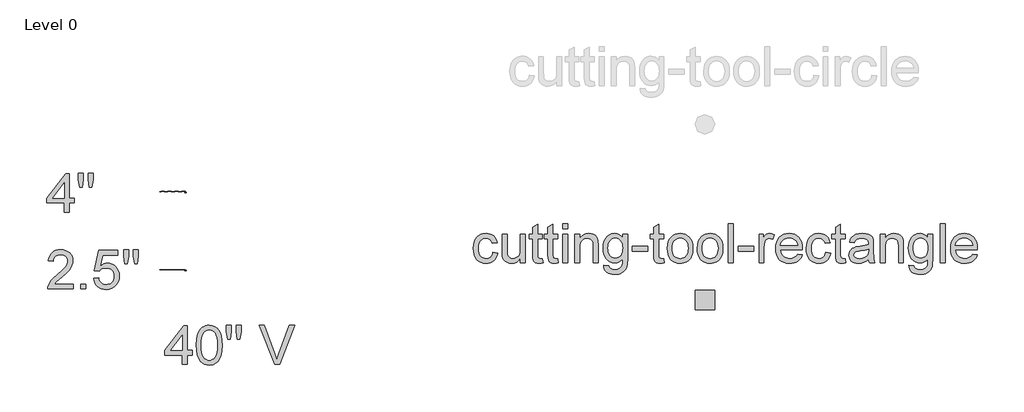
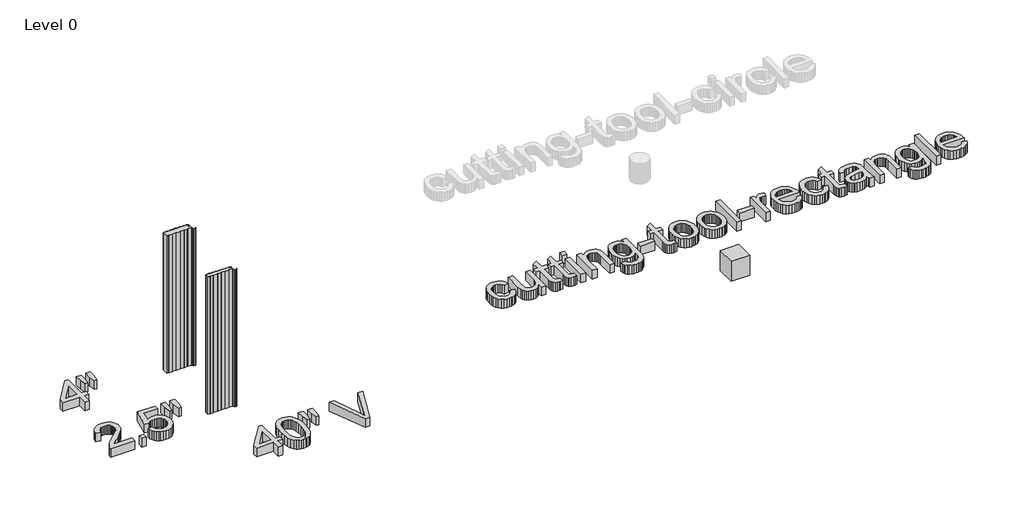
# One storey, part 1 of 2: 5 proxies, 2 plates.
"""IFC4 building model written with IfcOpenShell, lengths in millimetres."""

from ifc_helpers import new_model, si_unit, origin, origin_with_axes, place, context, project, spatial, polyline, outline, extrude, transform, mapped, element, save
from components import kingspan_ks_cutting_tool_rectangle_cutting_tool_rectangle_f435e5aa, vt_2_5_inch_4b6529dc, vt_4_inch_4cb30dbc

model = new_model("IFC4")

# Units and contexts
model_context = context("Model", 3, world=origin())
ifc_project = project(units=[si_unit("LENGTHUNIT", "METRE", prefix="MILLI")], contexts=[model_context])

# Site, building, storey
site = spatial("IfcSite", under=ifc_project)
building = spatial("IfcBuilding", under=site)
storey = spatial("IfcBuildingStorey", under=building, Name="Level 0", Elevation=0.0)

# Proxies
placement = place(None, origin())
element("IfcBuildingElementProxy", 1, Name="24\" Arial", ObjectType="24\" Arial", at=placement, inside=storey, context=model_context, shape_type="SweptSolid", body=[
    extrude(outline(polyline([(-8047.2310472, 10661.1522744), (-8047.2310472, 10585.0105009), (-8446.9753582, 10585.0105009), (-8445.3023211, 10611.8162718), (-8438.7960661, 10637.5066846), (-8420.0208729, 10678.5332701), (-8392.5458873, 10718.3329618), (-8352.8019635, 10759.9915835), (-8297.219956, 10806.594959), (-8215.0552492, 10879.5765515), (-8165.7564251, 10933.4483434), (-8151.3776014, 10955.4580748), (-8141.1070131, 10977.1703774), (-8134.9446601, 10998.5852512), (-8132.8905424, 11019.7026962), (-8134.8284769, 11039.5700108), (-8140.6422806, 11057.8293509), (-8150.3319533, 11074.4807165), (-8163.8974951, 11089.5241077), (-8180.5860393, 11101.9835861), (-8199.6447193, 11110.8832136), (-8221.0735351, 11116.2229901), (-8244.8724867, 11118.0029155), (-8269.9448053, 11116.264816), (-8292.3681486, 11111.0505173), (-8312.1425167, 11102.3600194), (-8329.2679095, 11090.1933225), (-8343.1215854, 11074.959391), (-8353.080803, 11057.0671896), (-8359.1455622, 11036.5167182), (-8361.315863, 11013.307977), (-8437.4576365, 11022.8256986), (-8430.9095555, 11062.1327739), (-8418.9984614, 11096.4765059), (-8401.7243542, 11125.8568949), (-8379.0872339, 11150.2739406), (-8351.6076009, 11169.4673931), (-8319.8059557, 11183.177002), (-8283.6822981, 11191.4027673), (-8243.2366282, 11194.1446891), (-8202.428467, 11191.0960438), (-8166.1096218, 11181.9501081), (-8134.2800926, 11166.706882), (-8106.9398794, 11145.3663654), (-8084.9812685, 11119.5086489), (-8069.2965465, 11090.7138229), (-8059.8857133, 11058.9818875), (-8056.7487689, 11024.3128427), (-8060.1320215, 10987.8964036), (-8070.2817794, 10952.1120008), (-8088.2948113, 10915.714151), (-8115.2678858, 10877.4573713), (-8158.2649371, 10831.7834608), (-8224.3498993, 10773.1342187), (-8311.9426817, 10699.892376), (-8346.2957084, 10661.1522744), (-8047.2310472, 10661.1522744)])), origin_with_axes(), (0.0, 0.0, 1.0), 152.4),
    extrude(outline(polyline([(-7933.0183869, 10585.0105009), (-7933.0183869, 10661.1522744), (-7856.8766134, 10661.1522744), (-7856.8766134, 10585.0105009), (-7933.0183869, 10585.0105009)])), origin_with_axes(), (0.0, 0.0, 1.0), 152.4),
    extrude(outline(polyline([(-7733.1462314, 10746.8117696), (-7657.0044579, 10756.3294913), (-7651.3161321, 10731.8520303), (-7643.0253042, 10710.6184022), (-7632.1319743, 10692.628607), (-7618.6361424, 10677.8826446), (-7602.5656924, 10666.3991044), (-7583.9485082, 10658.1965757), (-7562.78459, 10653.2750585), (-7539.0739376, 10651.6345528), (-7510.0746293, 10653.9163893), (-7484.4957523, 10660.7618991), (-7462.3373065, 10672.1710821), (-7443.5992919, 10688.1439383), (-7428.6999678, 10707.8904224), (-7418.0575935, 10730.6204892), (-7411.6721689, 10756.3341387), (-7409.543694, 10785.0313708), (-7411.5373964, 10812.1531598), (-7417.5185038, 10836.2634821), (-7427.487016, 10857.3623378), (-7441.4429331, 10875.4497269), (-7459.4327283, 10889.9586756), (-7481.502875, 10900.3222105), (-7507.653373, 10906.5403314), (-7537.8842224, 10908.6130384), (-7574.8211618, 10905.3041429), (-7604.7313458, 10895.3774566), (-7628.6185966, 10880.1714091), (-7647.4867362, 10861.0244299), (-7723.6285098, 10870.5421516), (-7657.0044579, 11184.6269674), (-7361.9550855, 11184.6269674), (-7361.9550855, 11108.4851939), (-7595.4366957, 11108.4851939), (-7628.0051497, 10940.7353491), (-7601.1343162, 10959.9938641), (-7573.6128573, 10973.7499462), (-7545.4407729, 10982.0035955), (-7516.618063, 10984.7548119), (-7479.5370565, 10981.3436753), (-7445.4768112, 10971.1102656), (-7414.4373273, 10954.0545827), (-7386.4186046, 10930.1766266), (-7363.2238053, 10900.9356574), (-7346.6560915, 10867.7909352), (-7336.7154632, 10830.7424599), (-7333.4019205, 10789.7902317), (-7336.3855032, 10750.3437367), (-7345.3362512, 10713.6484581), (-7360.2541646, 10679.704396), (-7381.1392433, 10648.5115503), (-7412.7782322, 10616.565838), (-7449.6965824, 10593.747472), (-7491.8942938, 10580.0564524), (-7539.3713664, 10575.4927792), (-7578.6644997, 10578.4252413), (-7614.156121, 10587.2226276), (-7645.8462305, 10601.8849382), (-7673.7348281, 10622.4121729), (-7696.938922, 10647.7819203), (-7714.5755206, 10676.9717689), (-7726.6446237, 10709.9817187), (-7733.1462314, 10746.8117696)])), origin_with_axes(), (0.0, 0.0, 1.0), 152.4),
    extrude(outline(polyline([(-7248.1885685, 10975.2370902), (-7266.7778686, 11092.8701817), (-7266.7778686, 11194.1446891), (-7190.6360951, 11194.1446891), (-7190.6360951, 11092.8701817), (-7207.2921081, 10975.2370902), (-7248.1885685, 10975.2370902)])), origin_with_axes(), (0.0, 0.0, 1.0), 152.4),
    extrude(outline(polyline([(-7096.3511646, 10975.2370902), (-7114.4943216, 11092.8701817), (-7114.4943216, 11194.1446891), (-7038.3525481, 11194.1446891), (-7038.3525481, 11092.8701817), (-7056.1982763, 10975.2370902), (-7096.3511646, 10975.2370902)])), origin_with_axes(), (0.0, 0.0, 1.0), 152.4),
])
element("IfcBuildingElementProxy", 2, Name="24\" Arial", ObjectType="24\" Arial", at=placement, inside=storey, context=model_context, shape_type="SweptSolid", body=[
    extrude(outline(polyline([(-8189.9968725, 11778.8105009), (-8189.9968725, 11921.5763263), (-8466.0108015, 11921.5763263), (-8466.0108015, 11997.7180998), (-8170.9614292, 12378.4269674), (-8113.855099, 12378.4269674), (-8113.855099, 11997.7180998), (-8037.7133255, 11997.7180998), (-8037.7133255, 11921.5763263), (-8113.855099, 11921.5763263), (-8113.855099, 11778.8105009), (-8189.9968725, 11778.8105009)]), holes=[polyline([(-8189.9968725, 11997.7180998), (-8189.9968725, 12232.9842828), (-8372.3207287, 11997.7180998), (-8189.9968725, 11997.7180998)])]), origin_with_axes(), (0.0, 0.0, 1.0), 152.4),
    extrude(outline(polyline([(-7952.4999735, 12169.0370902), (-7971.0892737, 12286.6701817), (-7971.0892737, 12387.9446891), (-7894.9475002, 12387.9446891), (-7894.9475002, 12286.6701817), (-7911.6035131, 12169.0370902), (-7952.4999735, 12169.0370902)])), origin_with_axes(), (0.0, 0.0, 1.0), 152.4),
    extrude(outline(polyline([(-7800.6625697, 12169.0370902), (-7818.8057266, 12286.6701817), (-7818.8057266, 12387.9446891), (-7742.6639531, 12387.9446891), (-7742.6639531, 12286.6701817), (-7760.5096813, 12169.0370902), (-7800.6625697, 12169.0370902)])), origin_with_axes(), (0.0, 0.0, 1.0), 152.4),
])
element("IfcBuildingElementProxy", 3, Name="24\" Arial", ObjectType="24\" Arial", at=placement, inside=storey, context=model_context, shape_type="SweptSolid", body=[
    extrude(outline(polyline([(-6353.1934429, 9409.440542), (-6353.1934429, 9552.2063674), (-6629.2073719, 9552.2063674), (-6629.2073719, 9628.3481409), (-6334.1579995, 10009.0570085), (-6277.0516693, 10009.0570085), (-6277.0516693, 9628.3481409), (-6200.9098958, 9628.3481409), (-6200.9098958, 9552.2063674), (-6277.0516693, 9552.2063674), (-6277.0516693, 9409.440542), (-6353.1934429, 9409.440542)]), holes=[polyline([(-6353.1934429, 9628.3481409), (-6353.1934429, 9863.6143239), (-6535.517299, 9628.3481409), (-6353.1934429, 9628.3481409)])]), origin_with_axes(), (0.0, 0.0, 1.0), 152.4),
    extrude(outline(polyline([(-6134.285844, 9709.1000608), (-6128.6904646, 9806.6009403), (-6121.6962405, 9847.9481912), (-6111.9043266, 9884.3599829), (-6099.356549, 9916.1337442), (-6084.0947335, 9943.5669039), (-6066.1188803, 9966.6594621), (-6045.4289892, 9985.4114186), (-6021.9553504, 9999.9203674), (-5995.628254, 10010.2839023), (-5966.4477, 10016.5020232), (-5934.4136885, 10018.5747302), (-5887.4942949, 10013.6671549), (-5845.4824765, 9998.9444292), (-5810.3486991, 9974.9828212), (-5784.0634287, 9942.3585994), (-5764.2100561, 9901.3506033), (-5748.3719724, 9852.2376722), (-5737.9991429, 9789.8705701), (-5734.541533, 9709.1000608), (-5740.0811445, 9612.1568604), (-5747.0056588, 9570.9490293), (-5756.6999788, 9534.5837108), (-5769.1501626, 9502.7960075), (-5784.3422682, 9475.3210218), (-5802.2762955, 9452.1587538), (-5822.9522447, 9433.3092034), (-5846.4537674, 9418.7026608), (-5872.8645156, 9408.2694161), (-5902.1844893, 9402.0094693), (-5934.4136885, 9399.9228203), (-5976.3511497, 9403.5477339), (-6013.5297501, 9414.4224745), (-6045.9494896, 9432.5470421), (-6073.6103682, 9457.9214369), (-6100.1558889, 9503.7905351), (-6119.1169751, 9560.9433384), (-6130.4936268, 9629.379847), (-6134.285844, 9709.1000608)]), holes=[polyline([(-6058.1440705, 9709.2487752), (-6055.9133545, 9643.0569246), (-6049.2212064, 9589.4779142), (-6038.0676263, 9548.511744), (-6022.4526141, 9520.1584139), (-6003.5658852, 9500.8673676), (-5982.5971546, 9487.0880488), (-5959.5464224, 9478.8204576), (-5934.4136885, 9476.0645938), (-5909.2809547, 9478.8297522), (-5886.2302225, 9487.1252274), (-5865.2614919, 9500.9510195), (-5846.3747629, 9520.3071283), (-5830.7597507, 9548.7069316), (-5819.6061706, 9589.6638072), (-5812.9140226, 9643.1777551), (-5810.6833065, 9709.2487752), (-5812.8396654, 9773.6885843), (-5819.3087418, 9826.3241877), (-5830.0905359, 9867.1555856), (-5845.1850477, 9896.1827778), (-5863.7557585, 9916.417231), (-5884.96615, 9930.8704119), (-5908.8162222, 9939.5423205), (-5935.3059749, 9942.4329566), (-5960.3085837, 9939.8862225), (-5982.9689406, 9932.2460201), (-6003.2870457, 9919.5123495), (-6021.2628989, 9901.6852107), (-6037.3984115, 9870.0834004), (-6048.9237776, 9827.4767244), (-6055.8389973, 9773.8651827), (-6058.1440705, 9709.2487752)])]), origin_with_axes(), (0.0, 0.0, 1.0), 152.4),
    extrude(outline(polyline([(-5649.328181, 9799.6671313), (-5667.9174812, 9917.3002228), (-5667.9174812, 10018.5747302), (-5591.7757077, 10018.5747302), (-5591.7757077, 9917.3002228), (-5608.4317206, 9799.6671313), (-5649.328181, 9799.6671313)])), origin_with_axes(), (0.0, 0.0, 1.0), 152.4),
    extrude(outline(polyline([(-5497.4907772, 9799.6671313), (-5515.6339342, 9917.3002228), (-5515.6339342, 10018.5747302), (-5439.4921607, 10018.5747302), (-5439.4921607, 9917.3002228), (-5457.3378888, 9799.6671313), (-5497.4907772, 9799.6671313)])), origin_with_axes(), (0.0, 0.0, 1.0), 152.4),
    extrude(outline(polyline([(-4916.9097541, 9409.440542), (-5159.3142284, 10018.5747302), (-5077.8187364, 10018.5747302), (-4915.5713245, 9579.7185316), (-4882.7054418, 9480.8234547), (-4850.2857023, 9579.7185316), (-4687.5921472, 10018.5747302), (-4606.0966552, 10018.5747302), (-4838.2398358, 9409.440542), (-4916.9097541, 9409.440542)])), origin_with_axes(), (0.0, 0.0, 1.0), 152.4),
])
element("IfcBuildingElementProxy", 4, Name="24\" Arial", ObjectType="24\" Arial", at=placement, inside=storey, context=model_context, shape_type="SweptSolid", body=[
    extrude(outline(polyline([(-1521.2529386, 11152.8063629), (-1445.1111651, 11143.2886412), (-1453.3926983, 11107.3601713), (-1466.3401459, 11075.5678206), (-1483.9535078, 11047.9115893), (-1506.2327841, 11024.3914773), (-1532.239215, 11005.6209314), (-1561.034041, 10992.2133987), (-1592.617262, 10984.168879), (-1626.988878, 10981.4873725), (-1669.6931478, 10985.2284691), (-1707.9824589, 10996.4517591), (-1741.8568111, 11015.1572424), (-1771.3162046, 11041.344919), (-1795.1616294, 11074.5221725), (-1812.1940756, 11114.1963864), (-1822.4135434, 11160.3675607), (-1825.8200327, 11213.0356954), (-1820.0015817, 11280.7936946), (-1812.728518, 11311.2847942), (-1802.5462289, 11339.5172938), (-1789.3850043, 11364.9242198), (-1773.1751346, 11386.9385986), (-1753.9166196, 11405.56043), (-1731.6094594, 11420.7897142), (-1707.2621235, 11432.6310984), (-1681.8830814, 11441.08923), (-1655.4723332, 11446.1641089), (-1628.0298788, 11447.8557352), (-1594.2484731, 11445.5320727), (-1563.6923109, 11438.5610852), (-1536.3613923, 11426.9427726), (-1512.2557173, 11410.6771349), (-1491.7842505, 11390.1359582), (-1475.3559565, 11365.6910285), (-1462.9708352, 11337.3423457), (-1454.6288868, 11305.0899099), (-1530.7706603, 11295.5721882), (-1544.5825103, 11328.7912676), (-1566.0903306, 11352.6041612), (-1594.104406, 11366.9365116), (-1627.4350212, 11371.7139617), (-1653.3066797, 11369.3624153), (-1676.6408988, 11362.3077758), (-1697.4376783, 11350.5500435), (-1715.6970184, 11334.0892182), (-1730.5638113, 11312.5442193), (-1741.182949, 11285.5339661), (-1747.5544316, 11253.0584587), (-1749.6782592, 11215.1176971), (-1747.6009049, 11176.6053144), (-1741.368842, 11143.7533737), (-1730.9820705, 11116.5618749), (-1716.4405904, 11095.0308179), (-1698.5437417, 11078.6675864), (-1678.0908642, 11066.979564), (-1655.0819579, 11059.9667505), (-1629.5170228, 11057.629146), (-1590.0891172, 11063.4661862), (-1573.0380816, 11070.7624865), (-1557.7623242, 11080.977307), (-1544.6893988, 11094.2221834), (-1534.2468594, 11110.6086515), (-1526.434706, 11130.1367113), (-1521.2529386, 11152.8063629)])), origin_with_axes(), (0.0, 0.0, 1.0), 152.4),
    extrude(outline(polyline([(-1092.9554626, 10991.0050941), (-1092.9554626, 11067.8904397), (-1120.5048054, 11030.0890978), (-1152.5899375, 11003.0881393), (-1189.2108589, 10986.8875642), (-1230.3675695, 10981.4873725), (-1267.4532233, 10985.2795897), (-1301.9735537, 10996.6562414), (-1330.9356834, 11013.7583976), (-1351.346735, 11034.7271282), (-1365.0842278, 11060.1944694), (-1374.0256812, 11090.7924575), (-1378.4871133, 11161.5805126), (-1378.4871133, 11438.3380136), (-1302.3453397, 11438.3380136), (-1302.3453397, 11197.4206833), (-1301.1928031, 11149.2372172), (-1297.7351933, 11119.7917658), (-1286.6373811, 11093.8968706), (-1267.620527, 11074.2108017), (-1241.9487035, 11061.7745599), (-1210.8859829, 11057.629146), (-1178.0386895, 11061.8675064), (-1147.3105763, 11074.5825877), (-1121.9733601, 11094.603264), (-1105.2987579, 11120.7584094), (-1096.0412864, 11156.5799908), (-1092.9554626, 11205.5999754), (-1092.9554626, 11438.3380136), (-1016.8136891, 11438.3380136), (-1016.8136891, 10991.0050941), (-1092.9554626, 10991.0050941)])), origin_with_axes(), (0.0, 0.0, 1.0), 152.4),
    extrude(outline(polyline([(-750.3174817, 11054.5061435), (-740.7997601, 10988.7743781), (-770.9516049, 10983.3091239), (-797.7573758, 10981.4873725), (-834.3039399, 10984.6475535), (-861.555854, 10994.1280966), (-880.814369, 11008.7392865), (-893.3807359, 11027.2914081), (-900.2959556, 11059.1534686), (-902.6010288, 11113.6944753), (-902.6010288, 11362.19624), (-959.7073589, 11362.19624), (-959.7073589, 11438.3380136), (-902.6010288, 11438.3380136), (-902.6010288, 11547.048241), (-826.4592553, 11591.8112758), (-826.4592553, 11438.3380136), (-750.3174817, 11438.3380136), (-750.3174817, 11362.19624), (-826.4592553, 11362.19624), (-826.4592553, 11115.9251913), (-822.4439664, 11076.6645894), (-809.4314563, 11062.7597928), (-798.4451799, 11058.9118077), (-783.4807933, 11057.629146), (-750.3174817, 11054.5061435)])), origin_with_axes(), (0.0, 0.0, 1.0), 152.4),
    extrude(outline(polyline([(-512.3744395, 11054.5061435), (-502.8567178, 10988.7743781), (-533.0085627, 10983.3091239), (-559.8143336, 10981.4873725), (-596.3608977, 10984.6475535), (-623.6128118, 10994.1280966), (-642.8713267, 11008.7392865), (-655.4376937, 11027.2914081), (-662.3529133, 11059.1534686), (-664.6579865, 11113.6944753), (-664.6579865, 11362.19624), (-721.7643167, 11362.19624), (-721.7643167, 11438.3380136), (-664.6579865, 11438.3380136), (-664.6579865, 11547.048241), (-588.516213, 11591.8112758), (-588.516213, 11438.3380136), (-512.3744395, 11438.3380136), (-512.3744395, 11362.19624), (-588.516213, 11362.19624), (-588.516213, 11115.9251913), (-584.5009242, 11076.6645894), (-571.4884141, 11062.7597928), (-560.5021377, 11058.9118077), (-545.537751, 11057.629146), (-512.3744395, 11054.5061435)])), origin_with_axes(), (0.0, 0.0, 1.0), 152.4),
    extrude(outline(polyline([(-436.232666, 11523.9975088), (-436.232666, 11600.1392823), (-360.0908925, 11600.1392823), (-360.0908925, 11523.9975088), (-436.232666, 11523.9975088)])), origin_with_axes(), (0.0, 0.0, 1.0), 152.4),
    extrude(outline(polyline([(-436.232666, 10991.0050941), (-436.232666, 11438.3380136), (-360.0908925, 11438.3380136), (-360.0908925, 10991.0050941), (-436.232666, 10991.0050941)])), origin_with_axes(), (0.0, 0.0, 1.0), 152.4),
    extrude(outline(polyline([(-245.8782322, 10991.0050941), (-245.8782322, 11438.3380136), (-169.7364587, 11438.3380136), (-169.7364587, 11375.877965), (-143.2838845, 11407.3682395), (-111.5147705, 11429.8612927), (-74.4291167, 11443.3571246), (-32.026923, 11447.8557352), (5.5048741, 11444.2308217), (39.8764901, 11433.3560811), (68.541191, 11416.5885324), (88.9522426, 11395.2851944), (102.8012712, 11369.501835), (111.7799032, 11339.2942222), (115.795192, 11265.6805935), (115.795192, 10991.0050941), (39.6534185, 10991.0050941), (39.6534185, 11255.4192998), (37.4598811, 11294.7914376), (30.8792688, 11322.7869237), (18.7404558, 11342.8447786), (-0.1276839, 11358.4040228), (-24.3123634, 11368.386477), (-52.400796, 11371.7139617), (-75.5212381, 11369.8457371), (-96.9965271, 11364.2410631), (-116.8266631, 11354.8999397), (-135.011646, 11341.822367), (-150.2037515, 11323.521201), (-161.0552555, 11298.5092976), (-167.5661579, 11266.7866569), (-169.7364587, 11228.3532788), (-169.7364587, 10991.0050941), (-245.8782322, 10991.0050941)])), origin_with_axes(), (0.0, 0.0, 1.0), 152.4),
    extrude(outline(polyline([(201.4546872, 10952.9342074), (277.5964607, 10943.4164857), (285.9988244, 10919.6221815), (302.2830514, 10903.2635973), (334.2938263, 10890.548516), (376.1941089, 10886.3101556), (420.8827865, 10891.106195), (438.932997, 10897.1012443), (454.1204552, 10905.4943133), (477.1711874, 10928.5450456), (491.2990555, 10959.3289266), (495.4258802, 10992.0832736), (496.5040596, 11048.1114243), (471.1668435, 11023.1274048), (442.8925179, 11005.2816767), (411.6810829, 10994.5742398), (377.5325385, 10991.0050941), (335.7856176, 10995.1598027), (299.0299238, 11007.6239285), (267.2654572, 11028.3974714), (240.4922176, 11057.4804316), (219.2492948, 11092.372548), (204.0757785, 11130.5735599), (194.9716688, 11172.0834672), (191.9369655, 11216.9022699), (197.3836305, 11278.3770856), (213.7236253, 11334.9071474), (225.8345544, 11360.3977252), (240.3806818, 11382.8117739), (257.3620075, 11402.1492934), (276.7785315, 11418.4102838), (298.3188831, 11431.2926688), (321.6716914, 11440.4943724), (346.8369566, 11446.0153945), (373.8146784, 11447.8557352), (409.4224829, 11443.691732), (441.7399813, 11431.1997223), (470.7671735, 11410.3797061), (496.5040596, 11381.2316834), (496.5040596, 11438.3380136), (572.6458331, 11438.3380136), (572.6458331, 11052.1267131), (567.4408291, 10962.9538402), (560.934574, 10929.7858813), (551.8258169, 10904.2302409), (539.8961335, 10883.6193544), (524.9270996, 10865.2856571), (506.918715, 10849.229149), (485.8709799, 10835.4498303), (461.9976711, 10824.3891967), (435.5125657, 10816.4887441), (406.4156636, 10811.7484726), (374.7069648, 10810.168382), (337.4028867, 10812.3944507), (303.8631419, 10819.0726568), (274.0877303, 10830.2030003), (248.0766521, 10845.7854812), (227.0660955, 10865.8386887), (212.2922492, 10890.3812123), (203.7551131, 10919.4130518), (201.4546872, 10952.9342074)]), holes=[polyline([(268.078739, 11222.1072739), (270.1096201, 11184.4592937), (276.2022632, 11152.2672732), (286.3566684, 11125.5312122), (300.5728357, 11104.2511108), (317.8562376, 11088.0180044), (337.2123464, 11076.4229284), (358.6411622, 11069.4658829), (382.1426849, 11067.1468677), (405.4118414, 11069.4519409), (426.738416, 11076.3671605), (446.1224088, 11087.8925267), (463.5638197, 11104.0280392), (477.9751746, 11125.099011), (488.2689996, 11151.4307547), (494.4452946, 11183.0232703), (496.5040596, 11219.8765579), (494.3848794, 11255.1915809), (488.0273387, 11285.8871628), (477.4314376, 11311.9633036), (462.5971761, 11333.4200034), (444.7793319, 11350.1736102), (425.2326827, 11362.1404721), (403.9572287, 11369.3205893), (380.9529697, 11371.7139617), (358.3344387, 11369.3577679), (337.4725966, 11362.2891865), (318.3674433, 11350.5082176), (301.018979, 11334.014861), (286.607624, 11312.883474), (276.313799, 11287.1884138), (270.137504, 11256.9296805), (268.078739, 11222.1072739)])]), origin_with_axes(), (0.0, 0.0, 1.0), 152.4),
    extrude(outline(polyline([(648.7876066, 11171.8418062), (648.7876066, 11247.9835798), (886.7306489, 11247.9835798), (886.7306489, 11171.8418062), (648.7876066, 11171.8418062)])), origin_with_axes(), (0.0, 0.0, 1.0), 152.4),
    extrude(outline(polyline([(1134.1914128, 11054.5061435), (1143.7091345, 10988.7743781), (1113.5572896, 10983.3091239), (1086.7515188, 10981.4873725), (1050.2049546, 10984.6475535), (1022.9530406, 10994.1280966), (1003.6945256, 11008.7392865), (991.1281587, 11027.2914081), (984.212939, 11059.1534686), (981.9078658, 11113.6944753), (981.9078658, 11362.19624), (924.8015356, 11362.19624), (924.8015356, 11438.3380136), (981.9078658, 11438.3380136), (981.9078658, 11547.048241), (1058.0496393, 11591.8112758), (1058.0496393, 11438.3380136), (1134.1914128, 11438.3380136), (1134.1914128, 11362.19624), (1058.0496393, 11362.19624), (1058.0496393, 11115.9251913), (1062.0649281, 11076.6645894), (1075.0774382, 11062.7597928), (1086.0637146, 11058.9118077), (1101.0281013, 11057.629146), (1134.1914128, 11054.5061435)])), origin_with_axes(), (0.0, 0.0, 1.0), 152.4),
    extrude(outline(polyline([(1191.2977429, 11214.6715539), (1195.4152729, 11272.6051078), (1207.7678629, 11322.5266735), (1228.3555128, 11364.4362507), (1257.1782228, 11398.3338396), (1286.1961203, 11419.9996689), (1318.2254845, 11435.4752613), (1353.2663154, 11444.7606168), (1391.3186128, 11447.8557352), (1433.3257839, 11444.0867546), (1471.3083715, 11432.7798128), (1505.2663756, 11413.9349098), (1535.1997962, 11387.5520455), (1559.6307839, 11354.5235064), (1577.0814895, 11315.7415789), (1587.5519128, 11271.206263), (1591.0420539, 11220.9175587), (1589.499142, 11180.1605181), (1584.8704062, 11143.9950346), (1577.1558467, 11112.4211082), (1566.3554633, 11085.438739), (1552.6040285, 11062.1324039), (1536.0363147, 11041.5865799), (1516.6523219, 11023.801267), (1494.4520502, 11008.7764651), (1470.2999019, 10996.8374871), (1445.0602796, 10988.3096456), (1418.7331833, 10983.1929407), (1391.3186128, 10981.4873725), (1348.6979948, 10985.2424111), (1310.3622106, 10996.507527), (1276.31126, 11015.2827202), (1246.5451431, 11041.5679906), (1222.3744055, 11074.9171951), (1205.109593, 11114.8841905), (1194.7507054, 11161.4689768), (1191.2977429, 11214.6715539)]), holes=[polyline([(1267.4395165, 11214.8202683), (1269.6423485, 11177.8879761), (1276.2508447, 11145.9097325), (1287.2650051, 11118.8855374), (1302.6848296, 11096.8153907), (1321.4414335, 11079.6714087), (1342.465932, 11067.4257072), (1365.7583251, 11060.0782863), (1391.3186128, 11057.629146), (1416.7487755, 11060.0922282), (1439.9482221, 11067.4814751), (1460.9169527, 11079.7968864), (1479.6549673, 11097.0384623), (1495.0747917, 11119.3270333), (1506.0889521, 11146.7834296), (1512.6974483, 11179.4076514), (1514.9002804, 11217.1996987), (1512.6835063, 11252.9608649), (1506.0331842, 11284.10259), (1494.949314, 11310.624874), (1479.4318957, 11332.527717), (1460.6241712, 11349.671699), (1439.6693826, 11361.9174005), (1416.5675298, 11369.2648214), (1391.3186128, 11371.7139617), (1365.7583251, 11369.2741161), (1342.465932, 11361.9545791), (1321.4414335, 11349.7553509), (1302.6848296, 11332.6764314), (1287.2650051, 11310.6713473), (1276.2508447, 11283.6936254), (1269.6423485, 11251.7432657), (1267.4395165, 11214.8202683)])]), origin_with_axes(), (0.0, 0.0, 1.0), 152.4),
    extrude(outline(polyline([(1657.6661057, 11214.6715539), (1661.7836357, 11272.6051078), (1674.1362257, 11322.5266735), (1694.7238756, 11364.4362507), (1723.5465856, 11398.3338396), (1752.5644831, 11419.9996689), (1784.5938473, 11435.4752613), (1819.6346782, 11444.7606168), (1857.6869756, 11447.8557352), (1899.6941467, 11444.0867546), (1937.6767343, 11432.7798128), (1971.6347384, 11413.9349098), (2001.568159, 11387.5520455), (2025.9991467, 11354.5235064), (2043.4498523, 11315.7415789), (2053.9202756, 11271.206263), (2057.4104167, 11220.9175587), (2055.8675048, 11180.1605181), (2051.238769, 11143.9950346), (2043.5242095, 11112.4211082), (2032.7238261, 11085.438739), (2018.9723913, 11062.1324039), (2002.4046775, 11041.5865799), (1983.0206847, 11023.801267), (1960.820413, 11008.7764651), (1936.6682647, 10996.8374871), (1911.4286424, 10988.3096456), (1885.101546, 10983.1929407), (1857.6869756, 10981.4873725), (1815.0663576, 10985.2424111), (1776.7305734, 10996.507527), (1742.6796228, 11015.2827202), (1712.9135059, 11041.5679906), (1688.7427683, 11074.9171951), (1671.4779558, 11114.8841905), (1661.1190682, 11161.4689768), (1657.6661057, 11214.6715539)]), holes=[polyline([(1733.8078792, 11214.8202683), (1736.0107113, 11177.8879761), (1742.6192075, 11145.9097325), (1753.6333679, 11118.8855374), (1769.0531924, 11096.8153907), (1787.8097963, 11079.6714087), (1808.8342948, 11067.4257072), (1832.1266879, 11060.0782863), (1857.6869756, 11057.629146), (1883.1171383, 11060.0922282), (1906.3165849, 11067.4814751), (1927.2853155, 11079.7968864), (1946.02333, 11097.0384623), (1961.4431545, 11119.3270333), (1972.4573149, 11146.7834296), (1979.0658111, 11179.4076514), (1981.2686432, 11217.1996987), (1979.0518691, 11252.9608649), (1972.401547, 11284.10259), (1961.3176768, 11310.624874), (1945.8002584, 11332.527717), (1926.992534, 11349.671699), (1906.0377454, 11361.9174005), (1882.9358926, 11369.2648214), (1857.6869756, 11371.7139617), (1832.1266879, 11369.2741161), (1808.8342948, 11361.9545791), (1787.8097963, 11349.7553509), (1769.0531924, 11332.6764314), (1753.6333679, 11310.6713473), (1742.6192075, 11283.6936254), (1736.0107113, 11251.7432657), (1733.8078792, 11214.8202683)])]), origin_with_axes(), (0.0, 0.0, 1.0), 152.4),
    extrude(outline(polyline([(2143.0699119, 10991.0050941), (2143.0699119, 11600.1392823), (2219.2116854, 11600.1392823), (2219.2116854, 10991.0050941), (2143.0699119, 10991.0050941)])), origin_with_axes(), (0.0, 0.0, 1.0), 152.4),
    extrude(outline(polyline([(2295.3534589, 11171.8418062), (2295.3534589, 11247.9835798), (2533.2965012, 11247.9835798), (2533.2965012, 11171.8418062), (2295.3534589, 11171.8418062)])), origin_with_axes(), (0.0, 0.0, 1.0), 152.4),
    extrude(outline(polyline([(2618.9559964, 10991.0050941), (2618.9559964, 11438.3380136), (2685.5800482, 11438.3380136), (2685.5800482, 11372.1601049), (2710.1922816, 11410.5284205), (2732.8712279, 11433.1330095), (2755.6245313, 11444.1750538), (2780.4598363, 11447.8557352), (2818.3820087, 11441.9815164), (2856.8990386, 11424.3588598), (2831.468876, 11356.0989496), (2804.7002837, 11367.8102087), (2777.9316915, 11371.7139617), (2755.1969774, 11367.9589231), (2734.8788723, 11356.6938072), (2718.4645202, 11338.7737218), (2707.4410652, 11315.0537748), (2698.1835937, 11272.521456), (2695.0977699, 11226.1225628), (2695.0977699, 10991.0050941), (2618.9559964, 10991.0050941)])), origin_with_axes(), (0.0, 0.0, 1.0), 152.4),
    extrude(outline(polyline([(3217.6801764, 11124.2531978), (3292.3348059, 11114.7354761), (3280.8884443, 11084.8345868), (3265.4360886, 11058.4842538), (3245.9777386, 11035.6844771), (3222.5133945, 11016.4352568), (3195.284717, 11001.1455574), (3164.5333672, 10990.2243435), (3130.259345, 10983.6716152), (3092.4626504, 10981.4873725), (3045.217944, 10985.2563531), (3003.1224738, 10996.5632949), (2966.1762397, 11015.4081979), (2934.3792418, 11041.7910622), (2908.8096594, 11074.9776104), (2890.5456719, 11114.233565), (2879.5872795, 11159.5589262), (2875.934482, 11210.9536938), (2879.6244581, 11264.0912084), (2890.6943863, 11310.9269502), (2909.1442668, 11351.4609192), (2934.9740994, 11385.6931155), (2966.6874455, 11412.8892616), (3002.7878664, 11432.3150803), (3043.2753622, 11443.9705715), (3088.1499328, 11447.8557352), (3131.5791853, 11443.9798662), (3170.8537293, 11432.3522589), (3205.9735646, 11412.9729135), (3236.9386914, 11385.8418299), (3262.2154923, 11351.6839908), (3280.2703501, 11311.224379), (3291.1032648, 11264.4629944), (3294.7142363, 11211.399837), (3294.2680931, 11190.8772496), (2952.0762555, 11190.8772496), (2956.486567, 11160.4930385), (2965.2560693, 11133.8824553), (2978.3847626, 11111.0455), (2995.8726467, 11091.9821727), (3016.7530782, 11076.9527235), (3040.0594132, 11066.2174027), (3065.791652, 11059.7762101), (3093.9497945, 11057.629146), (3134.4744688, 11061.6072562), (3168.604424, 11073.5415869), (3196.3396598, 11094.1757101), (3217.6801764, 11124.2531978)]), holes=[polyline([(2952.0762555, 11267.0190231), (3218.5724628, 11267.0190231), (3208.2739905, 11307.2462687), (3199.416189, 11323.0657632), (3188.0860105, 11336.0225054), (3167.3217622, 11351.6375175), (3143.6947617, 11362.7910976), (3117.205009, 11369.4832457), (3087.852504, 11371.7139617), (3061.0792644, 11369.9340362), (3036.5274462, 11364.5942598), (3014.1970494, 11355.6946323), (2994.0880739, 11343.2351539), (2977.2136367, 11327.7920927), (2964.5868545, 11309.9417172), (2956.2077275, 11289.6840274), (2952.0762555, 11267.0190231)])]), origin_with_axes(), (0.0, 0.0, 1.0), 152.4),
    extrude(outline(polyline([(3656.3876606, 11152.8063629), (3732.5294341, 11143.2886412), (3724.2479008, 11107.3601713), (3711.3004533, 11075.5678206), (3693.6870914, 11047.9115893), (3671.4078151, 11024.3914773), (3645.4013841, 11005.6209314), (3616.6065582, 10992.2133987), (3585.0233372, 10984.168879), (3550.6517212, 10981.4873725), (3507.9474513, 10985.2284691), (3469.6581403, 10996.4517591), (3435.7837881, 11015.1572424), (3406.3243946, 11041.344919), (3382.4789698, 11074.5221725), (3365.4465235, 11114.1963864), (3355.2270557, 11160.3675607), (3351.8205665, 11213.0356954), (3357.6390174, 11280.7936946), (3364.9120811, 11311.2847942), (3375.0943703, 11339.5172938), (3388.2555948, 11364.9242198), (3404.4654646, 11386.9385986), (3423.7239796, 11405.56043), (3446.0311398, 11420.7897142), (3470.3784757, 11432.6310984), (3495.7575177, 11441.08923), (3522.168266, 11446.1641089), (3549.6107203, 11447.8557352), (3583.3921261, 11445.5320727), (3613.9482883, 11438.5610852), (3641.2792068, 11426.9427726), (3665.3848818, 11410.6771349), (3685.8563487, 11390.1359582), (3702.2846427, 11365.6910285), (3714.6697639, 11337.3423457), (3723.0117124, 11305.0899099), (3646.8699389, 11295.5721882), (3633.0580888, 11328.7912676), (3611.5502685, 11352.6041612), (3583.5361932, 11366.9365116), (3550.205578, 11371.7139617), (3524.3339194, 11369.3624153), (3500.9997004, 11362.3077758), (3480.2029208, 11350.5500435), (3461.9435807, 11334.0892182), (3447.0767879, 11312.5442193), (3436.4576502, 11285.5339661), (3430.0861675, 11253.0584587), (3427.96234, 11215.1176971), (3430.0396943, 11176.6053144), (3436.2717572, 11143.7533737), (3446.6585287, 11116.5618749), (3461.2000087, 11095.0308179), (3479.0968575, 11078.6675864), (3499.549735, 11066.979564), (3522.5586413, 11059.9667505), (3548.1235763, 11057.629146), (3587.551482, 11063.4661862), (3604.6025176, 11070.7624865), (3619.878275, 11080.977307), (3632.9512004, 11094.2221834), (3643.3937397, 11110.6086515), (3651.2058931, 11130.1367113), (3656.3876606, 11152.8063629)])), origin_with_axes(), (0.0, 0.0, 1.0), 152.4),
    extrude(outline(polyline([(3960.9547546, 11054.5061435), (3970.4724763, 10988.7743781), (3940.3206314, 10983.3091239), (3913.5148606, 10981.4873725), (3876.9682964, 10984.6475535), (3849.7163824, 10994.1280966), (3830.4578674, 11008.7392865), (3817.8915005, 11027.2914081), (3810.9762808, 11059.1534686), (3808.6712076, 11113.6944753), (3808.6712076, 11362.19624), (3751.5648774, 11362.19624), (3751.5648774, 11438.3380136), (3808.6712076, 11438.3380136), (3808.6712076, 11547.048241), (3884.8129811, 11591.8112758), (3884.8129811, 11438.3380136), (3960.9547546, 11438.3380136), (3960.9547546, 11362.19624), (3884.8129811, 11362.19624), (3884.8129811, 11115.9251913), (3888.8282699, 11076.6645894), (3901.8407801, 11062.7597928), (3912.8270565, 11058.9118077), (3927.7914431, 11057.629146), (3960.9547546, 11054.5061435)])), origin_with_axes(), (0.0, 0.0, 1.0), 152.4),
    extrude(outline(polyline([(4322.6281788, 11048.1114243), (4286.2489184, 11016.9185786), (4248.7914785, 10996.507527), (4209.4007515, 10985.2424111), (4167.2216294, 10981.4873725), (4133.3193932, 10983.7459724), (4103.5904549, 10990.5217723), (4078.0348144, 11001.8147722), (4056.6524719, 11017.624972), (4039.76874, 11036.9485495), (4027.7089316, 11058.7816826), (4020.4730465, 11083.1243712), (4018.0610848, 11109.9766153), (4021.7045876, 11141.541247), (4032.6350961, 11170.2059478), (4049.4955914, 11194.7438241), (4070.9290545, 11213.9279818), (4096.1175562, 11228.427636), (4124.2431674, 11238.9120013), (4190.1236472, 11250.3630102), (4267.9756363, 11262.4088767), (4322.1820356, 11276.5367448), (4322.6281788, 11293.4901866), (4317.3859962, 11327.4714273), (4310.8332679, 11340.0563835), (4301.6594482, 11349.7042303), (4285.8027752, 11359.3334878), (4266.4884923, 11366.2115289), (4217.487097, 11371.7139617), (4172.1292046, 11368.0518696), (4140.4530371, 11357.0655932), (4118.8522703, 11336.7474881), (4103.72058, 11305.0899099), (4027.5788064, 11314.6076316), (4040.7957989, 11356.247664), (4060.5190464, 11388.9648323), (4088.5888896, 11413.9860303), (4126.8456694, 11432.5381519), (4173.6349379, 11444.0263394), (4227.3022475, 11447.8557352), (4278.7760197, 11444.4724826), (4319.5795336, 11434.3227247), (4350.3448254, 11419.0609093), (4371.7039313, 11400.341484), (4385.868978, 11377.1978053), (4395.0520923, 11348.6632295), (4398.7699523, 11282.0391777), (4398.7699523, 11187.308104), (4402.6365268, 11055.0266439), (4408.3620312, 11022.3280649), (4417.8053957, 10991.0050941), (4341.6636222, 10991.0050941), (4329.4690413, 11017.4762576), (4322.6281788, 11048.1114243)]), holes=[polyline([(4322.6281788, 11200.3949713), (4271.4704247, 11187.7170686), (4199.7900833, 11177.0468103), (4134.2813895, 11164.703515), (4117.2350012, 11156.2639727), (4104.6128664, 11144.6270708), (4096.8053603, 11130.6850957), (4094.2028583, 11115.3303337), (4099.8725948, 11092.6885661), (4116.8818045, 11074.1364445), (4144.8587013, 11061.7559706), (4183.4314991, 11057.629146), (4224.3279595, 11062.1835245), (4260.465559, 11075.8466601), (4289.7622961, 11095.9788722), (4310.1361691, 11119.9404802), (4319.170569, 11144.6270708), (4322.1820356, 11178.8313831), (4322.6281788, 11200.3949713)])]), origin_with_axes(), (0.0, 0.0, 1.0), 152.4),
    extrude(outline(polyline([(4503.4648909, 10991.0050941), (4503.4648909, 11438.3380136), (4579.6066644, 11438.3380136), (4579.6066644, 11375.877965), (4606.0592386, 11407.3682395), (4637.8283526, 11429.8612927), (4674.9140064, 11443.3571246), (4717.3162001, 11447.8557352), (4754.8479972, 11444.2308217), (4789.2196132, 11433.3560811), (4817.8843141, 11416.5885324), (4838.2953657, 11395.2851944), (4852.1443943, 11369.501835), (4861.1230263, 11339.2942222), (4865.1383151, 11265.6805935), (4865.1383151, 10991.0050941), (4788.9965416, 10991.0050941), (4788.9965416, 11255.4192998), (4786.8030042, 11294.7914376), (4780.2223919, 11322.7869237), (4768.0835789, 11342.8447786), (4749.2154392, 11358.4040228), (4725.0307597, 11368.386477), (4696.9423272, 11371.7139617), (4673.8218851, 11369.8457371), (4652.346596, 11364.2410631), (4632.5164601, 11354.8999397), (4614.3314772, 11341.822367), (4599.1393716, 11323.521201), (4588.2878676, 11298.5092976), (4581.7769652, 11266.7866569), (4579.6066644, 11228.3532788), (4579.6066644, 10991.0050941), (4503.4648909, 10991.0050941)])), origin_with_axes(), (0.0, 0.0, 1.0), 152.4),
    extrude(outline(polyline([(4950.7978103, 10952.9342074), (5026.9395839, 10943.4164857), (5035.3419475, 10919.6221815), (5051.6261745, 10903.2635973), (5083.6369494, 10890.548516), (5125.537232, 10886.3101556), (5170.2259096, 10891.106195), (5188.2761201, 10897.1012443), (5203.4635783, 10905.4943133), (5226.5143105, 10928.5450456), (5240.6421787, 10959.3289266), (5244.7690033, 10992.0832736), (5245.8471827, 11048.1114243), (5220.5099666, 11023.1274048), (5192.235641, 11005.2816767), (5161.024206, 10994.5742398), (5126.8756616, 10991.0050941), (5085.1287407, 10995.1598027), (5048.373047, 11007.6239285), (5016.6085803, 11028.3974714), (4989.8353407, 11057.4804316), (4968.5924179, 11092.372548), (4953.4189017, 11130.5735599), (4944.3147919, 11172.0834672), (4941.2800887, 11216.9022699), (4946.7267536, 11278.3770856), (4963.0667485, 11334.9071474), (4975.1776775, 11360.3977252), (4989.7238049, 11382.8117739), (5006.7051306, 11402.1492934), (5026.1216547, 11418.4102838), (5047.6620062, 11431.2926688), (5071.0148146, 11440.4943724), (5096.1800797, 11446.0153945), (5123.1578016, 11447.8557352), (5158.7656061, 11443.691732), (5191.0831044, 11431.1997223), (5220.1102966, 11410.3797061), (5245.8471827, 11381.2316834), (5245.8471827, 11438.3380136), (5321.9889562, 11438.3380136), (5321.9889562, 11052.1267131), (5316.7839522, 10962.9538402), (5310.2776971, 10929.7858813), (5301.16894, 10904.2302409), (5289.2392567, 10883.6193544), (5274.2702227, 10865.2856571), (5256.2618381, 10849.229149), (5235.214103, 10835.4498303), (5211.3407943, 10824.3891967), (5184.8556888, 10816.4887441), (5155.7587867, 10811.7484726), (5124.050088, 10810.168382), (5086.7460098, 10812.3944507), (5053.206265, 10819.0726568), (5023.4308535, 10830.2030003), (4997.4197752, 10845.7854812), (4976.4092187, 10865.8386887), (4961.6353723, 10890.3812123), (4953.0982362, 10919.4130518), (4950.7978103, 10952.9342074)]), holes=[polyline([(5017.4218622, 11222.1072739), (5019.4527432, 11184.4592937), (5025.5453863, 11152.2672732), (5035.6997916, 11125.5312122), (5049.9159589, 11104.2511108), (5067.1993607, 11088.0180044), (5086.5554695, 11076.4229284), (5107.9842853, 11069.4658829), (5131.485808, 11067.1468677), (5154.7549645, 11069.4519409), (5176.0815392, 11076.3671605), (5195.4655319, 11087.8925267), (5212.9069428, 11104.0280392), (5227.3182978, 11125.099011), (5237.6121227, 11151.4307547), (5243.7884177, 11183.0232703), (5245.8471827, 11219.8765579), (5243.7280025, 11255.1915809), (5237.3704618, 11285.8871628), (5226.7745607, 11311.9633036), (5211.9402992, 11333.4200034), (5194.122455, 11350.1736102), (5174.5758059, 11362.1404721), (5153.3003518, 11369.3205893), (5130.2960928, 11371.7139617), (5107.6775618, 11369.3577679), (5086.8157197, 11362.2891865), (5067.7105665, 11350.5082176), (5050.3621021, 11334.014861), (5035.9507471, 11312.883474), (5025.6569221, 11287.1884138), (5019.4806272, 11256.9296805), (5017.4218622, 11222.1072739)])]), origin_with_axes(), (0.0, 0.0, 1.0), 152.4),
    extrude(outline(polyline([(5436.2016165, 10991.0050941), (5436.2016165, 11600.1392823), (5512.34339, 11600.1392823), (5512.34339, 10991.0050941), (5436.2016165, 10991.0050941)])), origin_with_axes(), (0.0, 0.0, 1.0), 152.4),
    extrude(outline(polyline([(5939.7485797, 11124.2531978), (6014.4032092, 11114.7354761), (6002.9568476, 11084.8345868), (5987.5044918, 11058.4842538), (5968.0461418, 11035.6844771), (5944.5817977, 11016.4352568), (5917.3531203, 11001.1455574), (5886.6017705, 10990.2243435), (5852.3277483, 10983.6716152), (5814.5310537, 10981.4873725), (5767.2863473, 10985.2563531), (5725.190877, 10996.5632949), (5688.2446429, 11015.4081979), (5656.447645, 11041.7910622), (5630.8780626, 11074.9776104), (5612.6140752, 11114.233565), (5601.6556827, 11159.5589262), (5598.0028852, 11210.9536938), (5601.6928613, 11264.0912084), (5612.7627896, 11310.9269502), (5631.21267, 11351.4609192), (5657.0425026, 11385.6931155), (5688.7558487, 11412.8892616), (5724.8562696, 11432.3150803), (5765.3437654, 11443.9705715), (5810.218336, 11447.8557352), (5853.6475886, 11443.9798662), (5892.9221325, 11432.3522589), (5928.0419679, 11412.9729135), (5959.0070946, 11385.8418299), (5984.2838956, 11351.6839908), (6002.3387533, 11311.224379), (6013.171668, 11264.4629944), (6016.7826396, 11211.399837), (6016.3364964, 11190.8772496), (5674.1446588, 11190.8772496), (5678.5549702, 11160.4930385), (5687.3244726, 11133.8824553), (5700.4531658, 11111.0455), (5717.94105, 11091.9821727), (5738.8214814, 11076.9527235), (5762.1278165, 11066.2174027), (5787.8600553, 11059.7762101), (5816.0181977, 11057.629146), (5856.5428721, 11061.6072562), (5890.6728272, 11073.5415869), (5918.4080631, 11094.1757101), (5939.7485797, 11124.2531978)]), holes=[polyline([(5674.1446588, 11267.0190231), (5940.6408661, 11267.0190231), (5930.3423938, 11307.2462687), (5921.4845922, 11323.0657632), (5910.1544138, 11336.0225054), (5889.3901655, 11351.6375175), (5865.763165, 11362.7910976), (5839.2734122, 11369.4832457), (5809.9209072, 11371.7139617), (5783.1476677, 11369.9340362), (5758.5958495, 11364.5942598), (5736.2654526, 11355.6946323), (5716.1564772, 11343.2351539), (5699.2820399, 11327.7920927), (5686.6552578, 11309.9417172), (5678.2761307, 11289.6840274), (5674.1446588, 11267.0190231)])]), origin_with_axes(), (0.0, 0.0, 1.0), 152.4),
])
kingspan_ks_cutting_tool_rectangle_cutting_tool_rectangle_shape = kingspan_ks_cutting_tool_rectangle_cutting_tool_rectangle_f435e5aa(model_context)
element("IfcBuildingElementProxy", 5, Name="kingspan-ks-cutting-tool-rectangle : cutting-tool-rectangle", ObjectType="kingspan-ks-cutting-tool-rectangle : cutting-tool-rectangle", at=placement, inside=storey, context=model_context, shape_type="MappedRepresentation", body=[
    mapped(kingspan_ks_cutting_tool_rectangle_cutting_tool_rectangle_shape, transform((1776.7934259, 10410.6353892, 0.0), x_axis=(1.0, 0.0, 0.0), y_axis=(0.0, 1.0, 0.0), z_axis=(0.0, 0.0, 1.0))),
])

# Plates
vt_2_5_inch_shape = vt_2_5_inch_4b6529dc(model_context)
element("IfcPlate", 6, ObjectType="AWIP_R18_CP_HR3_Vt_Roof Panel : Vt_2.5 Inch", at=placement, inside=storey, context=model_context, shape_type="MappedRepresentation", body=[
    mapped(vt_2_5_inch_shape, transform((-6481.0836919, 10881.8207172, 0.0), x_axis=(-1.0, 0.0, 0.0), y_axis=(0.0, -1.0, 0.0), z_axis=(0.0, 0.0, 1.0))),
])
vt_4_inch_shape = vt_4_inch_4cb30dbc(model_context)
element("IfcPlate", 7, ObjectType="AWIP_R18_CP_HR3_Vt_Roof Panel : Vt_4 Inch", at=placement, inside=storey, context=model_context, shape_type="MappedRepresentation", body=[
    mapped(vt_4_inch_shape, transform((-6481.0836919, 12101.0207172, 0.0), x_axis=(-1.0, 0.0, 0.0), y_axis=(0.0, -1.0, 0.0), z_axis=(0.0, 0.0, 1.0))),
])

save(model, "model.ifc")
